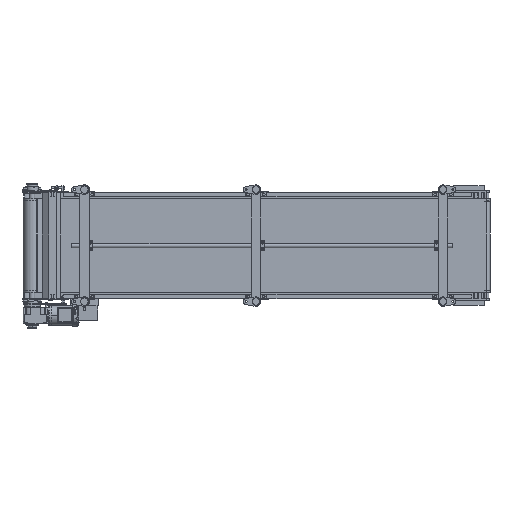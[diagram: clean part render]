
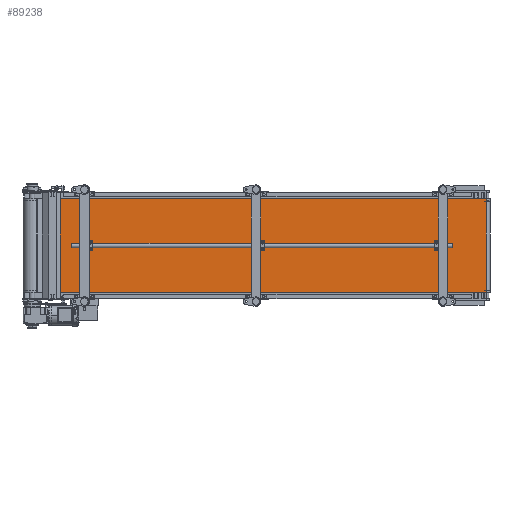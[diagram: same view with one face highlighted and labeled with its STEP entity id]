
A CAD part, front view. The second image highlights one B-rep face of the part: STEP entity #89238.
In plain terms, the highlighted planar face has unit normal (0.002, -1, 0).
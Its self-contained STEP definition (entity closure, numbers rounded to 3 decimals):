
#7061 = VERTEX_POINT ( 'NONE', #13400 ) ;
#7476 = EDGE_LOOP ( 'NONE', ( #13768, #41820, #47068, #111227 ) ) ;
#7626 = CARTESIAN_POINT ( 'NONE',  ( 2975.753, -47.85, -300. ) ) ;
#10802 = VECTOR ( 'NONE', #81999, 1000. ) ;
#11993 = VECTOR ( 'NONE', #29370, 1000. ) ;
#13400 = CARTESIAN_POINT ( 'NONE',  ( 182.449, -53.7, 300. ) ) ;
#13757 = LINE ( 'NONE', #15135, #10802 ) ;
#13768 = ORIENTED_EDGE ( 'NONE', *, *, #23979, .T. ) ;
#15135 = CARTESIAN_POINT ( 'NONE',  ( 2975.753, -47.85, 300. ) ) ;
#15172 = CARTESIAN_POINT ( 'NONE',  ( 2975.753, -47.85, -300. ) ) ;
#15252 = DIRECTION ( 'NONE',  ( 0., 0., 1. ) ) ;
#15982 = DIRECTION ( 'NONE',  ( 1., 0.002, 0. ) ) ;
#23334 = CARTESIAN_POINT ( 'NONE',  ( 2975.753, -47.85, 300. ) ) ;
#23979 = EDGE_CURVE ( 'NONE', #112152, #7061, #13757, .T. ) ;
#24092 = CARTESIAN_POINT ( 'NONE',  ( 182.449, -53.7, -300. ) ) ;
#25451 = PLANE ( 'NONE',  #118871 ) ;
#29370 = DIRECTION ( 'NONE',  ( -1., -0.002, 0. ) ) ;
#32824 = LINE ( 'NONE', #51595, #75657 ) ;
#33654 = CARTESIAN_POINT ( 'NONE',  ( 182.449, -53.7, -300. ) ) ;
#41820 = ORIENTED_EDGE ( 'NONE', *, *, #44452, .F. ) ;
#44452 = EDGE_CURVE ( 'NONE', #104833, #7061, #49270, .T. ) ;
#47068 = ORIENTED_EDGE ( 'NONE', *, *, #109928, .F. ) ;
#49270 = LINE ( 'NONE', #33654, #109866 ) ;
#51595 = CARTESIAN_POINT ( 'NONE',  ( 2975.753, -47.85, -300. ) ) ;
#54357 = FACE_OUTER_BOUND ( 'NONE', #7476, .T. ) ;
#56685 = CARTESIAN_POINT ( 'NONE',  ( 2975.753, -47.85, -300. ) ) ;
#63075 = DIRECTION ( 'NONE',  ( -0.002, 1., 0. ) ) ;
#75657 = VECTOR ( 'NONE', #15252, 1000. ) ;
#78448 = LINE ( 'NONE', #56685, #11993 ) ;
#81093 = DIRECTION ( 'NONE',  ( 0., 0., 1. ) ) ;
#81999 = DIRECTION ( 'NONE',  ( -1., -0.002, 0. ) ) ;
#89238 = ADVANCED_FACE ( 'NONE', ( #54357 ), #25451, .F. ) ;
#98807 = EDGE_CURVE ( 'NONE', #106845, #112152, #32824, .T. ) ;
#104833 = VERTEX_POINT ( 'NONE', #24092 ) ;
#106845 = VERTEX_POINT ( 'NONE', #7626 ) ;
#109866 = VECTOR ( 'NONE', #81093, 1000. ) ;
#109928 = EDGE_CURVE ( 'NONE', #106845, #104833, #78448, .T. ) ;
#111227 = ORIENTED_EDGE ( 'NONE', *, *, #98807, .T. ) ;
#112152 = VERTEX_POINT ( 'NONE', #23334 ) ;
#118871 = AXIS2_PLACEMENT_3D ( 'NONE', #15172, #63075, #15982 ) ;
